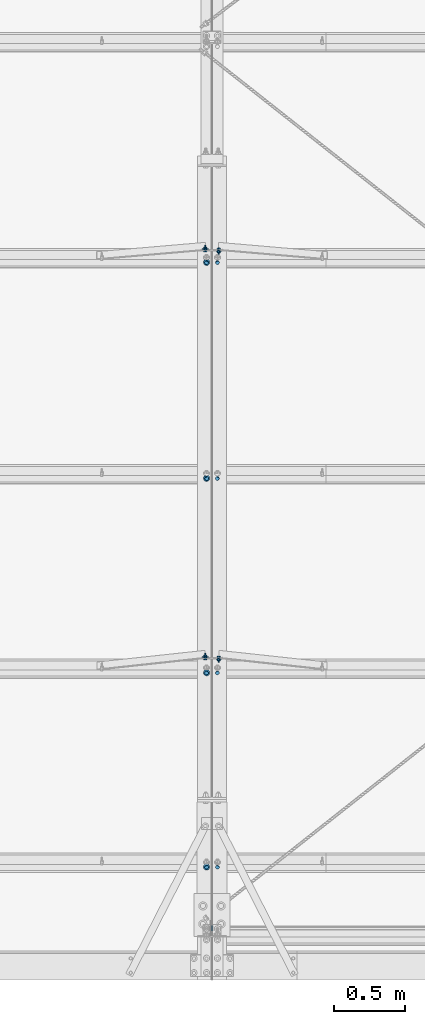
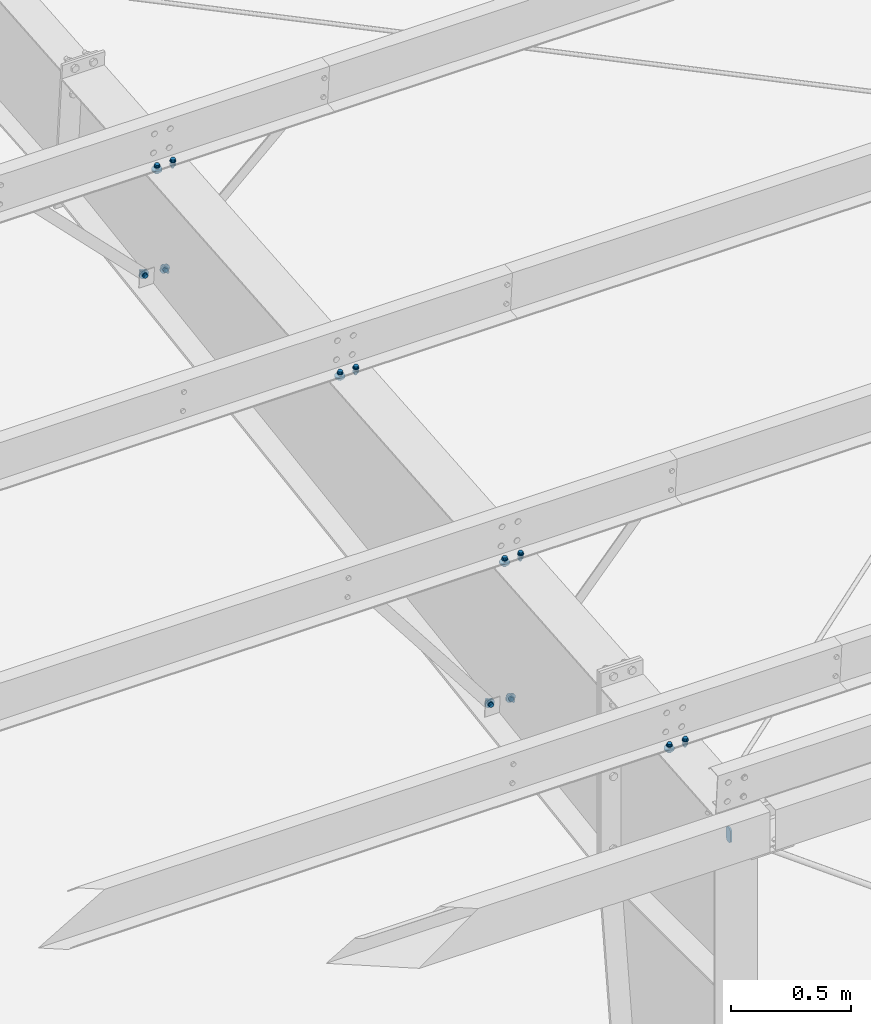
# One storey, part 137 of 185: 17 mechanical fasteners, 10 elements without a shape of their own.
"""IFC2X3 building model written with IfcOpenShell, lengths in millimetres."""

from ifc_helpers import new_model, si_unit, frame, frame_2d, origin_with_axes, origin_2d_with_axis, place, context, subcontext, project, spatial, polyline, circle_curve, parameter, trimmed, segment, composite_curve, circle, outline, extrude, source, transform, mapped, material, type_object, element, aggregate, save


model = new_model("IFC2X3")

# Units and contexts
model_context = context("Model", 3, precision=1e-05, world=origin_with_axes())
body_context = subcontext(model_context, "Body", "Model", "MODEL_VIEW")
ifc_project = project(units=[si_unit("LENGTHUNIT", "METRE", prefix="MILLI"), si_unit("AREAUNIT", "SQUARE_METRE"), si_unit("VOLUMEUNIT", "CUBIC_METRE"), si_unit("MASSUNIT", "GRAM", prefix="KILO"), si_unit("TIMEUNIT", "SECOND"), si_unit("PLANEANGLEUNIT", "RADIAN"), si_unit("SOLIDANGLEUNIT", "STERADIAN"), si_unit("THERMODYNAMICTEMPERATUREUNIT", "DEGREE_CELSIUS"), si_unit("LUMINOUSINTENSITYUNIT", "LUMEN")], contexts=[model_context])

# Site, building, storey
site_placement = place(None, origin_with_axes())
site = spatial("IfcSite", under=ifc_project, at=site_placement, Name="Undefined", CompositionType="ELEMENT")
building_placement = place(site_placement, origin_with_axes())
building = spatial("IfcBuilding", under=site, at=building_placement, Name="Undefined", CompositionType="ELEMENT")
storey_placement = place(building_placement, origin_with_axes())
storey = spatial("IfcBuildingStorey", under=building, at=storey_placement, Name="Undefined", CompositionType="ELEMENT", Elevation=0.0)

# Assembly, mechanical fastener
assembly_1_placement = place(storey_placement, origin_with_axes())
assembly_1 = element("IfcElementAssembly", 1, at=assembly_1_placement, inside=storey, Name="Steel Assembly", AssemblyPlace="NOTDEFINED", PredefinedType="RIGID_FRAME")
ifc_material_1 = material(Name="Undefined")
discrete_accessory_type = type_object("IfcDiscreteAccessoryType", Name="Bolt assembly")
shared_shape_1 = source(origin_with_axes(), body_context, "Body", "SweptSolid", [
    extrude(circle(Radius=7.14374971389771, at=origin_2d_with_axis()), frame((0.0, -1.59000001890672, 0.0), z_axis=(0.0, 1.0, 0.0), x_axis=(1.0, 0.0, 0.0)), (0.0, 0.0, 1.0), 1.7),
    extrude(outline(polyline([(10.9985221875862, 0.0), (5.4992610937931, 9.52499961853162), (-5.4992610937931, 9.52499961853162), (-10.9985221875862, 0.0), (-5.4992610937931, -9.52499961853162), (5.4992610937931, -9.52499961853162), (10.9985221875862, 0.0)])), frame((0.0, -15.0837496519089, 0.0), z_axis=(0.0, 1.0, 0.0), x_axis=(1.0, 0.0, 0.0)), (0.0, 0.0, 1.0), 9.5),
    extrude(circle(Radius=6.34999990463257, at=origin_2d_with_axis()), frame((0.0, -5.5587500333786, 0.0), z_axis=(0.0, 1.0, 0.0), x_axis=(1.0, 0.0, 0.0)), (0.0, 0.0, 1.0), 38.1),
    extrude(circle(Radius=13.4937496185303, at=origin_2d_with_axis()), frame((0.0, -5.5587500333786, 0.0), z_axis=(0.0, 1.0, 0.0), x_axis=(1.0, 0.0, 0.0)), (0.0, 0.0, 1.0), 4.0),
    extrude(circle(Radius=22.2250003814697, at=origin_2d_with_axis()), frame((0.0, 0.0, 0.0), z_axis=(0.0, 1.0, 0.0), x_axis=(1.0, 0.0, 0.0)), (0.0, 0.0, 1.0), 7.9),
    extrude(outline(polyline([(12.8316099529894, 0.0), (6.4158049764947, 11.1125001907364), (-6.4158049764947, 11.1125001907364), (-12.8316099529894, 0.0), (-6.4158049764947, -11.1125001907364), (6.4158049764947, -11.1125001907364), (12.8316099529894, 0.0)])), frame((0.0, 7.93750000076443, 0.0), z_axis=(0.0, 1.0, 0.0), x_axis=(1.0, 0.0, 0.0)), (0.0, 0.0, 1.0), 12.3),
])
mechanical_fastener_1_placement = place(assembly_1_placement, frame((30146.5257244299, 5133.84450725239, 5717.36204916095), z_axis=(0.719276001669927, 0.0576937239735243, -0.692324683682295), x_axis=(0.69472443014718, -0.0597326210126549, 0.716791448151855)))
mechanical_fastener_1 = element("IfcMechanicalFastener", 2, at=mechanical_fastener_1_placement, type_object=discrete_accessory_type, material=ifc_material_1, Name="Bolt assembly", NominalDiameter=12.6999998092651, NominalLength=38.0999984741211, context=body_context, shape_type="MappedRepresentation", body=[
    mapped(shared_shape_1, transform((0.0, 0.0, 0.0))),
])
aggregate(assembly_1, [mechanical_fastener_1])

assembly_2_placement = place(storey_placement, origin_with_axes())
assembly_2 = element("IfcElementAssembly", 3, at=assembly_2_placement, inside=storey, Name="Steel Assembly", AssemblyPlace="NOTDEFINED", PredefinedType="RIGID_FRAME")
mechanical_fastener_2_placement = place(assembly_2_placement, frame((30146.4401058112, 2264.36236561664, 5283.50648644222), z_axis=(0.793088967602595, 0.0505834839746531, -0.60700181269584), x_axis=(0.609105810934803, -0.0658624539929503, 0.790349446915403)))
mechanical_fastener_2 = element("IfcMechanicalFastener", 4, at=mechanical_fastener_2_placement, type_object=discrete_accessory_type, material=ifc_material_1, Name="Bolt assembly", NominalDiameter=12.6999998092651, NominalLength=38.0999984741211, context=body_context, shape_type="MappedRepresentation", body=[
    mapped(shared_shape_1, transform((0.0, 0.0, 0.0))),
])
aggregate(assembly_2, [mechanical_fastener_2])

assembly_3_placement = place(storey_placement, origin_with_axes())
assembly_3 = element("IfcElementAssembly", 5, at=assembly_3_placement, inside=storey, Name="Steel Assembly", AssemblyPlace="NOTDEFINED", PredefinedType="RIGID_FRAME")
shared_shape_2 = source(origin_with_axes(), body_context, "Body", "SweptSolid", [
    extrude(circle(Radius=7.14374971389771, at=origin_2d_with_axis()), frame((0.0, 0.0, 0.0), z_axis=(0.0, 1.0, 0.0), x_axis=(1.0, 0.0, 0.0)), (0.0, 0.0, 1.0), 1.7),
    extrude(outline(polyline([(10.9985221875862, 0.0), (5.4992610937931, 9.52499961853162), (-5.4992610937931, 9.52499961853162), (-10.9985221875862, 0.0), (-5.4992610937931, -9.52499961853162), (5.4992610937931, -9.52499961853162), (10.9985221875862, 0.0)])), frame((0.0, -13.4937496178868, 0.0), z_axis=(0.0, 1.0, 0.0), x_axis=(1.0, 0.0, 0.0)), (0.0, 0.0, 1.0), 9.5),
    extrude(circle(Radius=6.34999990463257, at=origin_2d_with_axis()), frame((0.0, -3.96874999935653, 0.0), z_axis=(0.0, 1.0, 0.0), x_axis=(1.0, 0.0, 0.0)), (0.0, 0.0, 1.0), 38.1),
    extrude(circle(Radius=13.4937496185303, at=origin_2d_with_axis()), frame((0.0, -3.96874999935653, 0.0), z_axis=(0.0, 1.0, 0.0), x_axis=(1.0, 0.0, 0.0)), (0.0, 0.0, 1.0), 4.0),
    extrude(circle(Radius=22.2250003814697, at=origin_2d_with_axis()), frame((0.0, 1.5900000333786, 0.0), z_axis=(0.0, 1.0, 0.0), x_axis=(1.0, 0.0, 0.0)), (0.0, 0.0, 1.0), 7.9),
    extrude(outline(polyline([(12.8316099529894, 0.0), (6.4158049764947, 11.1125001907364), (-6.4158049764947, 11.1125001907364), (-12.8316099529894, 0.0), (-6.4158049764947, -11.1125001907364), (6.4158049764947, -11.1125001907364), (12.8316099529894, 0.0)])), frame((0.0, 9.5275000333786, 0.0), z_axis=(0.0, 1.0, 0.0), x_axis=(1.0, 0.0, 0.0)), (0.0, 0.0, 1.0), 12.3),
])
mechanical_fastener_3_placement = place(assembly_3_placement, frame((30051.4742755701, 5133.84450725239, 5717.36204916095), z_axis=(-0.719276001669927, 0.0576937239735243, -0.692324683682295), x_axis=(-0.69472443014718, -0.0597326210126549, 0.716791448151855)))
mechanical_fastener_3 = element("IfcMechanicalFastener", 6, at=mechanical_fastener_3_placement, type_object=discrete_accessory_type, material=ifc_material_1, Name="Bolt assembly", NominalDiameter=12.6999998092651, NominalLength=38.0999984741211, context=body_context, shape_type="MappedRepresentation", body=[
    mapped(shared_shape_2, transform((0.0, 0.0, 0.0))),
])
aggregate(assembly_3, [mechanical_fastener_3])

assembly_4_placement = place(storey_placement, origin_with_axes())
assembly_4 = element("IfcElementAssembly", 7, at=assembly_4_placement, inside=storey, Name="Steel Assembly", AssemblyPlace="NOTDEFINED", PredefinedType="RIGID_FRAME")
mechanical_fastener_4_placement = place(assembly_4_placement, frame((30051.5598941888, 2264.36236561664, 5283.50648644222), z_axis=(-0.793088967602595, 0.0505834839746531, -0.60700181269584), x_axis=(-0.609105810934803, -0.0658624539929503, 0.790349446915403)))
mechanical_fastener_4 = element("IfcMechanicalFastener", 8, at=mechanical_fastener_4_placement, type_object=discrete_accessory_type, material=ifc_material_1, Name="Bolt assembly", NominalDiameter=12.6999998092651, NominalLength=38.0999984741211, context=body_context, shape_type="MappedRepresentation", body=[
    mapped(shared_shape_2, transform((0.0, 0.0, 0.0))),
])
aggregate(assembly_4, [mechanical_fastener_4])

# Assembly, mechanical fasteners
assembly_5_placement = place(storey_placement, origin_with_axes())
assembly_5 = element("IfcElementAssembly", 9, at=assembly_5_placement, inside=storey, Name="Steel Assembly", AssemblyPlace="NOTDEFINED", PredefinedType="RIGID_FRAME")
ifc_material_2 = material(Name="7990")
shared_shape_3 = source(origin_with_axes(), body_context, "Body", "SweptSolid", [
    extrude(circle(Radius=7.14374971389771, at=origin_2d_with_axis()), frame((0.0, -3.41600000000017, 0.0), z_axis=(0.0, 1.0, 0.0), x_axis=(1.0, 0.0, 0.0)), (0.0, 0.0, 1.0), 3.5),
    extrude(circle(Radius=11.4299998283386, at=origin_2d_with_axis()), frame((0.0, 0.0, 0.0), z_axis=(0.0, 1.0, 0.0), x_axis=(1.0, 0.0, 0.0)), (0.0, 0.0, 1.0), 4.2),
    extrude(outline(polyline([(12.171698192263, 0.0), (6.08584909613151, 10.5409998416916), (-6.08584909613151, 10.5409998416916), (-12.171698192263, 0.0), (-6.08584909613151, -10.5409998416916), (6.08584909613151, -10.5409998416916), (12.171698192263, 0.0)])), frame((0.0, 4.1909999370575, 0.0), z_axis=(0.0, 1.0, 0.0), x_axis=(1.0, 0.0, 0.0)), (0.0, 0.0, 1.0), 8.4),
])
mechanical_fastener_5_placement = place(assembly_5_placement, frame((30052.169, 5133.90423987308, 5716.64525771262), z_axis=(0.921635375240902, 0.0322263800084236, -0.386716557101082), x_axis=(-0.388056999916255, 0.0765376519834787, -0.9184518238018)))
mechanical_fastener_5 = element("IfcMechanicalFastener", 10, at=mechanical_fastener_5_placement, type_object=discrete_accessory_type, material=ifc_material_2, Name="Bolt assembly", NominalDiameter=12.6999998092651, NominalLength=38.0999984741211, context=body_context, shape_type="MappedRepresentation", body=[
    mapped(shared_shape_3, transform((0.0, 0.0, 0.0))),
])
mechanical_fastener_6_placement = place(assembly_5_placement, frame((30052.169, 2264.42822807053, 5282.7161369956), z_axis=(0.921635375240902, 0.0322263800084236, -0.386716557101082), x_axis=(-0.388056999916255, 0.0765376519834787, -0.9184518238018)))
mechanical_fastener_6 = element("IfcMechanicalFastener", 11, at=mechanical_fastener_6_placement, type_object=discrete_accessory_type, material=ifc_material_2, Name="Bolt assembly", NominalDiameter=12.6999998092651, NominalLength=38.0999984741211, context=body_context, shape_type="MappedRepresentation", body=[
    mapped(shared_shape_3, transform((0.0, 0.0, 0.0))),
])
shared_shape_4 = source(origin_with_axes(), body_context, "Body", "SweptSolid", [
    extrude(circle(Radius=7.14374971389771, at=origin_2d_with_axis()), frame((0.0, 0.0, 0.0), z_axis=(0.0, 1.0, 0.0), x_axis=(1.0, 0.0, 0.0)), (0.0, 0.0, 1.0), 3.5),
    extrude(circle(Radius=11.4299998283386, at=origin_2d_with_axis()), frame((0.0, 3.41600000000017, 0.0), z_axis=(0.0, 1.0, 0.0), x_axis=(1.0, 0.0, 0.0)), (0.0, 0.0, 1.0), 4.2),
    extrude(outline(polyline([(12.171698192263, 0.0), (6.08584909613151, 10.5409998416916), (-6.08584909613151, 10.5409998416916), (-12.171698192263, 0.0), (-6.08584909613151, -10.5409998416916), (6.08584909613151, -10.5409998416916), (12.171698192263, 0.0)])), frame((0.0, 7.60699993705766, 0.0), z_axis=(0.0, 1.0, 0.0), x_axis=(1.0, 0.0, 0.0)), (0.0, 0.0, 1.0), 8.4),
])
mechanical_fastener_7_placement = place(assembly_5_placement, frame((30145.831, 5133.90423987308, 5716.64525771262), z_axis=(-0.921635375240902, 0.0322263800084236, -0.386716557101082), x_axis=(0.388056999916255, 0.0765376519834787, -0.9184518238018)))
mechanical_fastener_7 = element("IfcMechanicalFastener", 12, at=mechanical_fastener_7_placement, type_object=discrete_accessory_type, material=ifc_material_2, Name="Bolt assembly", NominalDiameter=12.6999998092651, NominalLength=38.0999984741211, context=body_context, shape_type="MappedRepresentation", body=[
    mapped(shared_shape_4, transform((0.0, 0.0, 0.0))),
])
mechanical_fastener_8_placement = place(assembly_5_placement, frame((30145.831, 2264.42822807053, 5282.7161369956), z_axis=(-0.921635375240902, 0.0322263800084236, -0.386716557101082), x_axis=(0.388056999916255, 0.0765376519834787, -0.9184518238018)))
mechanical_fastener_8 = element("IfcMechanicalFastener", 13, at=mechanical_fastener_8_placement, type_object=discrete_accessory_type, material=ifc_material_2, Name="Bolt assembly", NominalDiameter=12.6999998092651, NominalLength=38.0999984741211, context=body_context, shape_type="MappedRepresentation", body=[
    mapped(shared_shape_4, transform((0.0, 0.0, 0.0))),
])
aggregate(assembly_5, [mechanical_fastener_7, mechanical_fastener_5, mechanical_fastener_8, mechanical_fastener_6])

# Assembly, mechanical fastener
assembly_6_placement = place(storey_placement, origin_with_axes())
assembly_6 = element("IfcElementAssembly", 14, at=assembly_6_placement, inside=storey, Name="Steel Assembly", AssemblyPlace="NOTDEFINED", PredefinedType="RIGID_FRAME")
shared_shape_5 = source(origin_with_axes(), body_context, "Body", "SweptSolid", [
    extrude(outline(composite_curve([segment(polyline([(-23.8125, 17.4624996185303), (23.8125, 17.4624996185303)]), True, "CONTINUOUS"), segment(trimmed(circle_curve(frame_2d((23.8125, 4.76249980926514), x_axis=(0.0, 1.0)), 12.7), [parameter(0.0)], [parameter(4.71238898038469)], False, "PARAMETER"), True, "CONTINUOUS"), segment(polyline([(36.5124998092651, 4.76249980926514), (36.5124998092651, -4.76249980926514)]), True, "CONTINUOUS"), segment(trimmed(circle_curve(frame_2d((23.8125, -4.76249980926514), x_axis=(1.0, 0.0)), 12.7), [parameter(0.0)], [parameter(4.71238898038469)], False, "PARAMETER"), True, "CONTINUOUS"), segment(polyline([(23.8125, -17.4624996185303), (-23.8125, -17.4624996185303)]), True, "CONTINUOUS"), segment(trimmed(circle_curve(frame_2d((-23.8125, -4.76249980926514), x_axis=(0.0, -1.0)), 12.7), [parameter(0.0)], [parameter(4.71238898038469)], False, "PARAMETER"), True, "CONTINUOUS"), segment(polyline([(-36.5124998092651, -4.76249980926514), (-36.5124998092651, 4.76249980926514)]), True, "CONTINUOUS"), segment(trimmed(circle_curve(frame_2d((-23.8125, 4.76249980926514), x_axis=(-1.0, 0.0)), 12.7), [parameter(0.0)], [parameter(4.71238898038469)], False, "PARAMETER"), True, "DISCONTINUOUS")], self_intersect=False)), frame((0.0, -3.96874999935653, 0.0), z_axis=(0.0, 1.0, 0.0), x_axis=(1.0, 0.0, 0.0)), (0.0, 0.0, 1.0), 8.0),
])
mechanical_fastener_9_placement = place(assembly_6_placement, frame((30099.0, 363.473999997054, 5757.77406711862), z_axis=(0.0, 1.0, 0.0), x_axis=(0.0, 0.0, -1.0)))
mechanical_fastener_9 = element("IfcMechanicalFastener", 15, at=mechanical_fastener_9_placement, type_object=discrete_accessory_type, material=ifc_material_1, Name="Bolt assembly", NominalDiameter=25.3999996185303, NominalLength=31.75, context=body_context, shape_type="MappedRepresentation", body=[
    mapped(shared_shape_5, transform((0.0, 0.0, 0.0))),
])
aggregate(assembly_6, [mechanical_fastener_9])

# Assembly, mechanical fasteners
assembly_7_placement = place(storey_placement, origin_with_axes())
assembly_7 = element("IfcElementAssembly", 16, at=assembly_7_placement, inside=storey, Name="Steel Assembly", AssemblyPlace="NOTDEFINED", PredefinedType="RIGID_FRAME")
shared_shape_6 = source(origin_with_axes(), body_context, "Body", "SweptSolid", [
    extrude(circle(Radius=7.14374971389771, at=origin_2d_with_axis()), frame((0.0, -0.1, 0.0), z_axis=(0.0, 1.0, 0.0), x_axis=(1.0, 0.0, 0.0)), (0.0, 0.0, 1.0), 8.1),
    extrude(circle(Radius=7.14374971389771, at=origin_2d_with_axis()), frame((0.0, -3.08000006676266, 0.0), z_axis=(0.0, 1.0, 0.0), x_axis=(1.0, 0.0, 0.0)), (0.0, 0.0, 1.0), 3.2),
    extrude(circle(Radius=7.14374971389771, at=origin_2d_with_axis()), frame((0.0, -3.08000006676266, 0.0), z_axis=(0.0, 1.0, 0.0), x_axis=(1.0, 0.0, 0.0)), (0.0, 0.0, 1.0), 3.2),
    extrude(outline(polyline([(10.9985221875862, 0.0), (5.4992610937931, 9.52499961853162), (-5.4992610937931, 9.52499961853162), (-10.9985221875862, 0.0), (-5.4992610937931, -9.52499961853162), (5.4992610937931, -9.52499961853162), (10.9985221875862, 0.0)])), frame((0.0, -16.6737496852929, 0.0), z_axis=(0.0, 1.0, 0.0), x_axis=(1.0, 0.0, 0.0)), (0.0, 0.0, 1.0), 9.5),
    extrude(circle(Radius=6.34999990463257, at=origin_2d_with_axis()), frame((0.0, -7.14875006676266, 0.0), z_axis=(0.0, 1.0, 0.0), x_axis=(1.0, 0.0, 0.0)), (0.0, 0.0, 1.0), 38.1),
    extrude(circle(Radius=13.4937496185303, at=origin_2d_with_axis()), frame((0.0, -7.14875006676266, 0.0), z_axis=(0.0, 1.0, 0.0), x_axis=(1.0, 0.0, 0.0)), (0.0, 0.0, 1.0), 4.0),
    extrude(circle(Radius=22.2250003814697, at=origin_2d_with_axis()), frame((0.0, 7.95019856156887, 0.0), z_axis=(0.0, 1.0, 0.0), x_axis=(1.0, 0.0, 0.0)), (0.0, 0.0, 1.0), 7.9),
    extrude(outline(polyline([(12.8316099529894, 0.0), (6.4158049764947, 11.1125001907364), (-6.4158049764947, 11.1125001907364), (-12.8316099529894, 0.0), (-6.4158049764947, -11.1125001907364), (6.4158049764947, -11.1125001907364), (12.8316099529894, 0.0)])), frame((0.0, 15.8876985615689, 0.0), z_axis=(0.0, 1.0, 0.0), x_axis=(1.0, 0.0, 0.0)), (0.0, 0.0, 1.0), 12.3),
])
mechanical_fastener_10_placement = place(assembly_7_placement, frame((30060.9, 793.549517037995, 5958.22479168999), z_axis=(1.0, 0.0, 0.0), x_axis=(0.0, -0.996545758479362, -0.0830454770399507)))
mechanical_fastener_10 = element("IfcMechanicalFastener", 17, at=mechanical_fastener_10_placement, type_object=discrete_accessory_type, material=ifc_material_1, Name="Bolt assembly", NominalDiameter=12.6999998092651, NominalLength=38.0999984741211, context=body_context, shape_type="MappedRepresentation", body=[
    mapped(shared_shape_6, transform((0.0, 0.0, 0.0))),
])
shared_shape_7 = source(origin_with_axes(), body_context, "Body", "SweptSolid", [
    extrude(circle(Radius=7.14374971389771, at=origin_2d_with_axis()), frame((0.0, -0.1, 0.0), z_axis=(0.0, 1.0, 0.0), x_axis=(1.0, 0.0, 0.0)), (0.0, 0.0, 1.0), 8.1),
    extrude(circle(Radius=7.14374971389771, at=origin_2d_with_axis()), frame((0.0, -3.08000006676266, 0.0), z_axis=(0.0, 1.0, 0.0), x_axis=(1.0, 0.0, 0.0)), (0.0, 0.0, 1.0), 3.2),
    extrude(circle(Radius=7.14374971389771, at=origin_2d_with_axis()), frame((0.0, -3.08000006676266, 0.0), z_axis=(0.0, 1.0, 0.0), x_axis=(1.0, 0.0, 0.0)), (0.0, 0.0, 1.0), 3.2),
    extrude(outline(polyline([(10.9985221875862, 0.0), (5.4992610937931, 9.52499961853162), (-5.4992610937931, 9.52499961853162), (-10.9985221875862, 0.0), (-5.4992610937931, -9.52499961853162), (5.4992610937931, -9.52499961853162), (10.9985221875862, 0.0)])), frame((0.0, -16.6737496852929, 0.0), z_axis=(0.0, 1.0, 0.0), x_axis=(1.0, 0.0, 0.0)), (0.0, 0.0, 1.0), 9.5),
    extrude(circle(Radius=6.34999990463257, at=origin_2d_with_axis()), frame((0.0, -7.14875006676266, 0.0), z_axis=(0.0, 1.0, 0.0), x_axis=(1.0, 0.0, 0.0)), (0.0, 0.0, 1.0), 38.1),
    extrude(circle(Radius=13.4937496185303, at=origin_2d_with_axis()), frame((0.0, -7.14875006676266, 0.0), z_axis=(0.0, 1.0, 0.0), x_axis=(1.0, 0.0, 0.0)), (0.0, 0.0, 1.0), 4.0),
    extrude(outline(polyline([(12.8316099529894, 0.0), (6.4158049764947, 11.1125001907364), (-6.4158049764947, 11.1125001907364), (-12.8316099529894, 0.0), (-6.4158049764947, -11.1125001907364), (6.4158049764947, -11.1125001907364), (12.8316099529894, 0.0)])), frame((0.0, 7.95019856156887, 0.0), z_axis=(0.0, 1.0, 0.0), x_axis=(1.0, 0.0, 0.0)), (0.0, 0.0, 1.0), 12.3),
])
mechanical_fastener_11_placement = place(assembly_7_placement, frame((30137.1, 793.549517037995, 5958.22479168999), z_axis=(1.0, 0.0, 0.0), x_axis=(0.0, -0.996545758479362, -0.0830454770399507)))
mechanical_fastener_11 = element("IfcMechanicalFastener", 18, at=mechanical_fastener_11_placement, type_object=discrete_accessory_type, material=ifc_material_1, Name="Bolt assembly", NominalDiameter=12.6999998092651, NominalLength=38.0999984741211, context=body_context, shape_type="MappedRepresentation", body=[
    mapped(shared_shape_7, transform((0.0, 0.0, 0.0))),
])
aggregate(assembly_7, [mechanical_fastener_10, mechanical_fastener_11])

# Assembly, mechanical fastener
assembly_8_placement = place(storey_placement, origin_with_axes())
assembly_8 = element("IfcElementAssembly", 19, at=assembly_8_placement, inside=storey, Name="Steel Assembly", AssemblyPlace="NOTDEFINED", PredefinedType="RIGID_FRAME")
shared_shape_8 = source(origin_with_axes(), body_context, "Body", "SweptSolid", [
    extrude(circle(Radius=7.14374971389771, at=origin_2d_with_axis()), frame((0.0, -0.0897199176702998, 0.0), z_axis=(0.0, 1.0, 0.0), x_axis=(1.0, 0.0, 0.0)), (0.0, 0.0, 1.0), 8.0),
    extrude(circle(Radius=7.14374971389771, at=origin_2d_with_axis()), frame((0.0, -3.08000006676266, 0.0), z_axis=(0.0, 1.0, 0.0), x_axis=(1.0, 0.0, 0.0)), (0.0, 0.0, 1.0), 3.2),
    extrude(circle(Radius=7.14374971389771, at=origin_2d_with_axis()), frame((0.0, -3.08000006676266, 0.0), z_axis=(0.0, 1.0, 0.0), x_axis=(1.0, 0.0, 0.0)), (0.0, 0.0, 1.0), 3.2),
    extrude(outline(polyline([(10.9985221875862, 0.0), (5.4992610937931, 9.52499961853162), (-5.4992610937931, 9.52499961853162), (-10.9985221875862, 0.0), (-5.4992610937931, -9.52499961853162), (5.4992610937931, -9.52499961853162), (10.9985221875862, 0.0)])), frame((0.0, -16.6737496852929, 0.0), z_axis=(0.0, 1.0, 0.0), x_axis=(1.0, 0.0, 0.0)), (0.0, 0.0, 1.0), 9.5),
    extrude(circle(Radius=6.34999990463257, at=origin_2d_with_axis()), frame((0.0, -7.14875006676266, 0.0), z_axis=(0.0, 1.0, 0.0), x_axis=(1.0, 0.0, 0.0)), (0.0, 0.0, 1.0), 38.1),
    extrude(circle(Radius=13.4937496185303, at=origin_2d_with_axis()), frame((0.0, -7.14875006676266, 0.0), z_axis=(0.0, 1.0, 0.0), x_axis=(1.0, 0.0, 0.0)), (0.0, 0.0, 1.0), 4.0),
    extrude(circle(Radius=22.2250003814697, at=origin_2d_with_axis()), frame((0.0, 7.88428008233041, 0.0), z_axis=(0.0, 1.0, 0.0), x_axis=(1.0, 0.0, 0.0)), (0.0, 0.0, 1.0), 7.9),
    extrude(outline(polyline([(12.8316099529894, 0.0), (6.4158049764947, 11.1125001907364), (-6.4158049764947, 11.1125001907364), (-12.8316099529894, 0.0), (-6.4158049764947, -11.1125001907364), (6.4158049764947, -11.1125001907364), (12.8316099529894, 0.0)])), frame((0.0, 15.8217800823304, 0.0), z_axis=(0.0, 1.0, 0.0), x_axis=(1.0, 0.0, 0.0)), (0.0, 0.0, 1.0), 12.3),
])
mechanical_fastener_12_placement = place(assembly_8_placement, frame((30060.9, 5046.00957656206, 6312.59646403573), z_axis=(1.0, 0.0, 0.0), x_axis=(0.0, -0.996545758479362, -0.0830454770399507)))
mechanical_fastener_12 = element("IfcMechanicalFastener", 20, at=mechanical_fastener_12_placement, type_object=discrete_accessory_type, material=ifc_material_1, Name="Bolt assembly", NominalDiameter=12.6999998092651, NominalLength=38.0999984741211, context=body_context, shape_type="MappedRepresentation", body=[
    mapped(shared_shape_8, transform((0.0, 0.0, 0.0))),
])

assembly_9_placement = place(storey_placement, origin_with_axes())
assembly_9 = element("IfcElementAssembly", 21, at=assembly_9_placement, inside=storey, Name="Steel Assembly", AssemblyPlace="NOTDEFINED", PredefinedType="RIGID_FRAME")
mechanical_fastener_13_placement = place(assembly_9_placement, frame((30060.9, 3527.27384101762, 6186.03515248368), z_axis=(1.0, 0.0, 0.0), x_axis=(0.0, -0.996545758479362, -0.0830454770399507)))
mechanical_fastener_13 = element("IfcMechanicalFastener", 22, at=mechanical_fastener_13_placement, type_object=discrete_accessory_type, material=ifc_material_1, Name="Bolt assembly", NominalDiameter=12.6999998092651, NominalLength=38.0999984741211, context=body_context, shape_type="MappedRepresentation", body=[
    mapped(shared_shape_8, transform((0.0, 0.0, 0.0))),
])

assembly_10_placement = place(storey_placement, origin_with_axes())
assembly_10 = element("IfcElementAssembly", 23, at=assembly_10_placement, inside=storey, Name="Steel Assembly", AssemblyPlace="NOTDEFINED", PredefinedType="RIGID_FRAME")
mechanical_fastener_14_placement = place(assembly_10_placement, frame((30060.9, 2160.41167902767, 6072.12997208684), z_axis=(1.0, 0.0, 0.0), x_axis=(0.0, -0.996545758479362, -0.0830454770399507)))
mechanical_fastener_14 = element("IfcMechanicalFastener", 24, at=mechanical_fastener_14_placement, type_object=discrete_accessory_type, material=ifc_material_1, Name="Bolt assembly", NominalDiameter=12.6999998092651, NominalLength=38.0999984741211, context=body_context, shape_type="MappedRepresentation", body=[
    mapped(shared_shape_8, transform((0.0, 0.0, 0.0))),
])

# Mechanical fastener
shared_shape_9 = source(origin_with_axes(), body_context, "Body", "SweptSolid", [
    extrude(circle(Radius=7.14374971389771, at=origin_2d_with_axis()), frame((0.0, -0.0897199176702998, 0.0), z_axis=(0.0, 1.0, 0.0), x_axis=(1.0, 0.0, 0.0)), (0.0, 0.0, 1.0), 8.0),
    extrude(circle(Radius=7.14374971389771, at=origin_2d_with_axis()), frame((0.0, -3.08000006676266, 0.0), z_axis=(0.0, 1.0, 0.0), x_axis=(1.0, 0.0, 0.0)), (0.0, 0.0, 1.0), 3.2),
    extrude(circle(Radius=7.14374971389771, at=origin_2d_with_axis()), frame((0.0, -3.08000006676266, 0.0), z_axis=(0.0, 1.0, 0.0), x_axis=(1.0, 0.0, 0.0)), (0.0, 0.0, 1.0), 3.2),
    extrude(outline(polyline([(10.9985221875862, 0.0), (5.4992610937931, 9.52499961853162), (-5.4992610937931, 9.52499961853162), (-10.9985221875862, 0.0), (-5.4992610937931, -9.52499961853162), (5.4992610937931, -9.52499961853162), (10.9985221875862, 0.0)])), frame((0.0, -16.6737496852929, 0.0), z_axis=(0.0, 1.0, 0.0), x_axis=(1.0, 0.0, 0.0)), (0.0, 0.0, 1.0), 9.5),
    extrude(circle(Radius=6.34999990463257, at=origin_2d_with_axis()), frame((0.0, -7.14875006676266, 0.0), z_axis=(0.0, 1.0, 0.0), x_axis=(1.0, 0.0, 0.0)), (0.0, 0.0, 1.0), 38.1),
    extrude(circle(Radius=13.4937496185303, at=origin_2d_with_axis()), frame((0.0, -7.14875006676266, 0.0), z_axis=(0.0, 1.0, 0.0), x_axis=(1.0, 0.0, 0.0)), (0.0, 0.0, 1.0), 4.0),
    extrude(outline(polyline([(12.8316099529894, 0.0), (6.4158049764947, 11.1125001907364), (-6.4158049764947, 11.1125001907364), (-12.8316099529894, 0.0), (-6.4158049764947, -11.1125001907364), (6.4158049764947, -11.1125001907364), (12.8316099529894, 0.0)])), frame((0.0, 7.88428008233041, 0.0), z_axis=(0.0, 1.0, 0.0), x_axis=(1.0, 0.0, 0.0)), (0.0, 0.0, 1.0), 12.3),
])
mechanical_fastener_15_placement = place(assembly_8_placement, frame((30137.1, 5046.00957656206, 6312.59646403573), z_axis=(1.0, 0.0, 0.0), x_axis=(0.0, -0.996545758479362, -0.0830454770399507)))
mechanical_fastener_15 = element("IfcMechanicalFastener", 25, at=mechanical_fastener_15_placement, type_object=discrete_accessory_type, material=ifc_material_1, Name="Bolt assembly", NominalDiameter=12.6999998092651, NominalLength=38.0999984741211, context=body_context, shape_type="MappedRepresentation", body=[
    mapped(shared_shape_9, transform((0.0, 0.0, 0.0))),
])

aggregate(assembly_8, [mechanical_fastener_12, mechanical_fastener_15])

mechanical_fastener_16_placement = place(assembly_9_placement, frame((30137.1, 3527.27384101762, 6186.03515248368), z_axis=(1.0, 0.0, 0.0), x_axis=(0.0, -0.996545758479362, -0.0830454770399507)))
mechanical_fastener_16 = element("IfcMechanicalFastener", 26, at=mechanical_fastener_16_placement, type_object=discrete_accessory_type, material=ifc_material_1, Name="Bolt assembly", NominalDiameter=12.6999998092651, NominalLength=38.0999984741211, context=body_context, shape_type="MappedRepresentation", body=[
    mapped(shared_shape_9, transform((0.0, 0.0, 0.0))),
])

aggregate(assembly_9, [mechanical_fastener_13, mechanical_fastener_16])

mechanical_fastener_17_placement = place(assembly_10_placement, frame((30137.1, 2160.41167902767, 6072.12997208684), z_axis=(1.0, 0.0, 0.0), x_axis=(0.0, -0.996545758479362, -0.0830454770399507)))
mechanical_fastener_17 = element("IfcMechanicalFastener", 27, at=mechanical_fastener_17_placement, type_object=discrete_accessory_type, material=ifc_material_1, Name="Bolt assembly", NominalDiameter=12.6999998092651, NominalLength=38.0999984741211, context=body_context, shape_type="MappedRepresentation", body=[
    mapped(shared_shape_9, transform((0.0, 0.0, 0.0))),
])

aggregate(assembly_10, [mechanical_fastener_14, mechanical_fastener_17])

save(model, "model.ifc")
